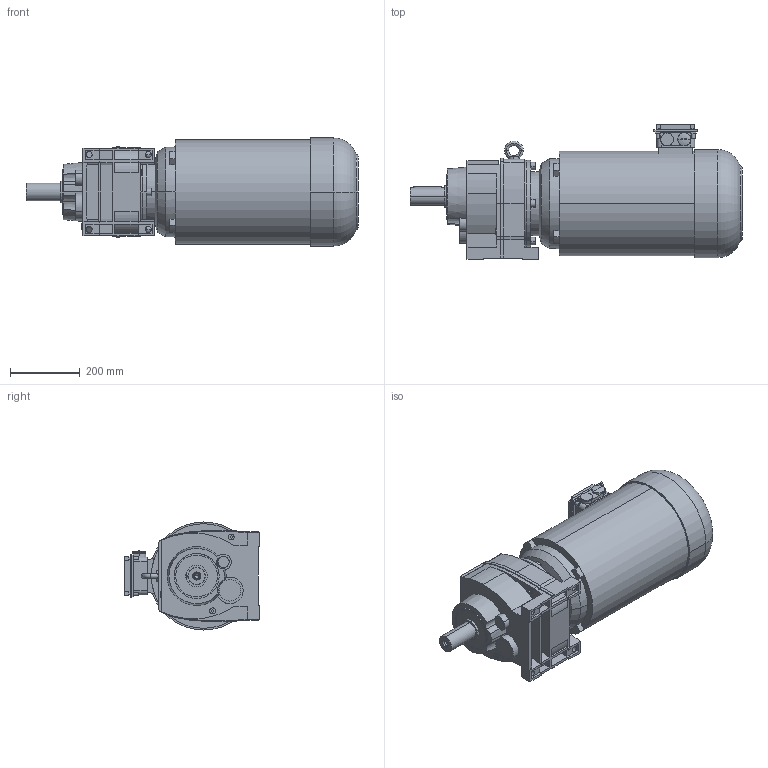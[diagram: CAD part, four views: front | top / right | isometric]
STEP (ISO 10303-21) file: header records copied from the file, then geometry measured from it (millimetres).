
FILE_DESCRIPTION(('STEP AP214'),'1');
FILE_NAME('STEP-File.stp','2018-01-01T00:00:00',(' '),('KEB'),' ','KEB-DRIVE',' ');
FILE_SCHEMA(('AUTOMOTIVE_DESIGN { 1 0 10303 214 1 1 1 1 }'));
Length unit declared in the file: millimetre
Products named in the file (9): g5a; w5_we_50x100; cs5; dm160_kkn; kk10; PLUG_M32; SCREW-PLUG_M32; ndm160; G53A DM160MB4§CAD13
Assembly tree (8 placements, depth 2):
  G53A DM160MB4§CAD13
    g5a
    w5_we_50x100
    cs5
    dm160_kkn
    kk10
    PLUG_M32
    SCREW-PLUG_M32
    ndm160
Bounding box: 952.49 x 386.6 x 310 mm (x, y, z)
Volume: 53973538.9 mm3; surface area: 1506977 mm2
Topology: 8 solids, 8 shells, 388 faces, 996 edges, 655 vertices
Faces by surface type: plane 253, cylinder 90, cone 28, torus 17
Entity records: 13392 total; most frequent: CARTESIAN_POINT 3953, ORIENTED_EDGE 1988, DIRECTION 1766, EDGE_CURVE 994, VECTOR 658, LINE 658, VERTEX_POINT 655, AXIS2_PLACEMENT_3D 554
